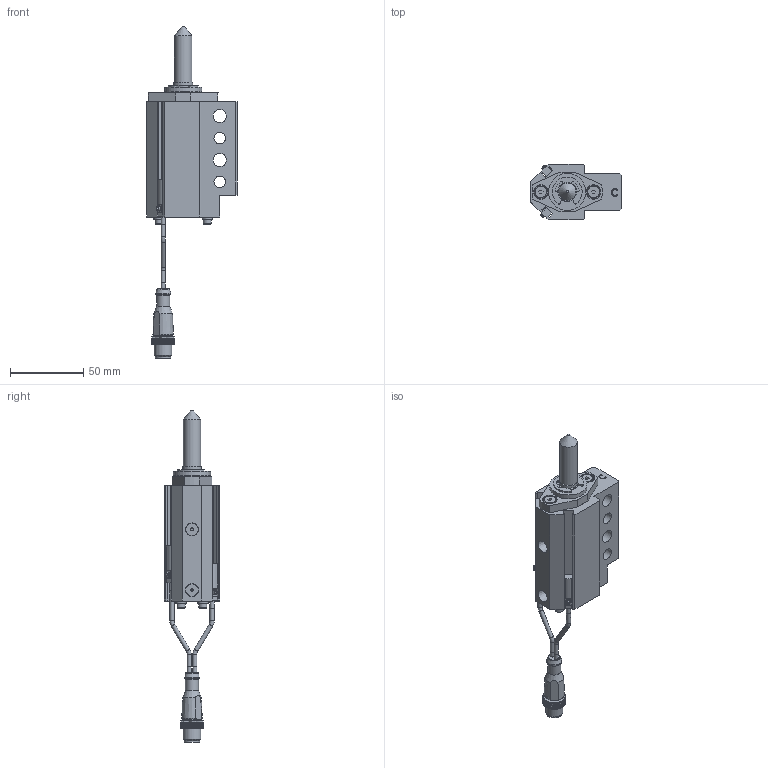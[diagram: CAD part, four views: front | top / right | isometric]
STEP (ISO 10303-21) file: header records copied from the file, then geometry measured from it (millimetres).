
FILE_DESCRIPTION(/* description */ ('NAAMS FLOATING MICRO PIN'),/* implementation_level */ '2;1');
FILE_NAME(/* name */ 'C:\Vault Workspace\CAD\Welker\Shot Pin\NMP\NMP120032ACNL3.stp',/* time_stamp */ '2021-01-27T10:42:41-05:00',/* author */ ('WELKER'),/* organization */ (''),/* preprocessor_version */ 'ST-DEVELOPER v18.1',/* originating_system */ 'Autodesk Inventor 2020',/* authorisation */ '');
FILE_SCHEMA (('AUTOMOTIVE_DESIGN { 1 0 10303 214 3 1 1 }'));
Length unit declared in the file: millimetre
Products named in the file (16): NMPL01; NMP L3 SWITCH; L3 Connector; L3 Sensor 1; L3 Sensor 2; L3 Sensor cable; L3 Sensor cable 2; M3X0.5-8 SHCS; NL3; NMPE06; NMPE03; NMPE05-DIA-LENGTH; 985432A218; NMPE01C-PORT; RMPE02; M5X5 SHOULDER
Assembly tree (22 placements, depth 3):
  NMPL01
    NMP L3 SWITCH
      L3 Connector
      L3 Sensor 1
      L3 Sensor 2
      L3 Sensor cable
      L3 Sensor cable 2
    M3X0.5-8 SHCS  x4
    NL3  x4
    NMPE06
    NMPE03
    NMPE05-DIA-LENGTH
    985432A218
    NMPE01C-PORT
    RMPE02
    M5X5 SHOULDER  x2
Bounding box: 62 x 38.1 x 227.12 mm (x, y, z)
Volume: 113275.4 mm3; surface area: 46139.6 mm2
Topology: 21 solids, 21 shells, 752 faces, 2040 edges, 1364 vertices
Faces by surface type: plane 545, cylinder 144, cone 31, bspline 18, torus 11, sphere 3
Full cylindrical faces by diameter (mm): 2 x2, 2.459 x4, 2.9 x10, 3 x5, 3.242 x2, 3.4 x4, 4 x2, 5 x6, 5.5 x4, 7 x4, 8 x2, 8.3 x2, 9 x5, 10 x3, 10.4 x1, 10.5 x1, 12 x2, 13 x3, 16 x2, 19.05 x3, 21 x1, 22.5 x1, 23.672 x1, 24 x1, 25.4 x1, 25.5 x1, 26.5 x1, 28.677 x1, 29.21 x1, 31.75 x2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
Entity records: 23061 total; most frequent: CARTESIAN_POINT 4367, ORIENTED_EDGE 3778, DIRECTION 3695, EDGE_CURVE 1889, LINE 1377, VECTOR 1377, VERTEX_POINT 1269, AXIS2_PLACEMENT_3D 1159
